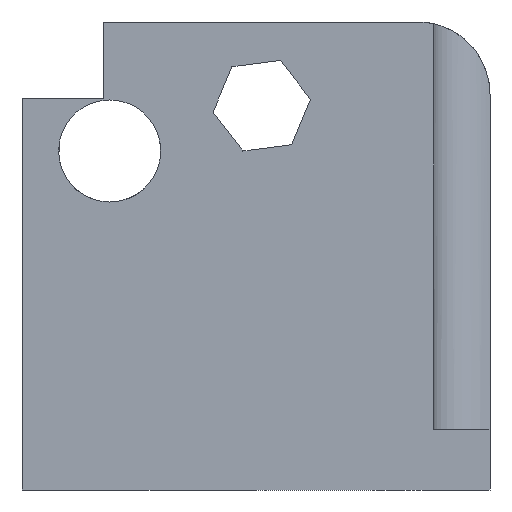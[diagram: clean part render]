
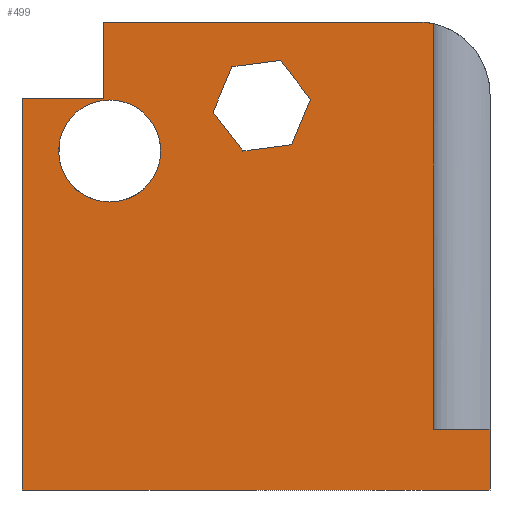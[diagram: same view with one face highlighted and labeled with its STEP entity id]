
A CAD part, left-side view. The second image highlights one B-rep face of the part: STEP entity #499.
In plain terms, the highlighted planar face has unit normal (-1, 0, 0).
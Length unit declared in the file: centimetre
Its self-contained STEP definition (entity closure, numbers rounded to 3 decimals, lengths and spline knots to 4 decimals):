
#3 = DIRECTION ( 'NONE',  ( 0., 0., -1. ) ) ;
#43 = DIRECTION ( 'NONE',  ( 0., 0., -1. ) ) ;
#45 = EDGE_CURVE ( 'NONE', #1384, #1856, #201, .T. ) ;
#48 = EDGE_CURVE ( 'NONE', #228, #1799, #528, .T. ) ;
#51 = DIRECTION ( 'NONE',  ( 0., 0.384, -0.924 ) ) ;
#68 = FACE_BOUND ( 'NONE', #793, .T. ) ;
#73 = ORIENTED_EDGE ( 'NONE', *, *, #707, .T. ) ;
#90 = VERTEX_POINT ( 'NONE', #1304 ) ;
#93 = CARTESIAN_POINT ( 'NONE',  ( 0., 120.1593, 996.0682 ) ) ;
#113 = EDGE_CURVE ( 'NONE', #1665, #189, #1031, .T. ) ;
#124 = CARTESIAN_POINT ( 'NONE',  ( 0., 527.8822, 724.254 ) ) ;
#129 = LINE ( 'NONE', #1313, #1232 ) ;
#135 = CARTESIAN_POINT ( 'NONE',  ( 0., 812.6484, 833.3904 ) ) ;
#136 = DIRECTION ( 'NONE',  ( 0., -1., 0. ) ) ;
#141 = VECTOR ( 'NONE', #666, 100. ) ;
#146 = VERTEX_POINT ( 'NONE', #1480 ) ;
#149 = CARTESIAN_POINT ( 'NONE',  ( 0., 154.83, 845.17 ) ) ;
#174 = CIRCLE ( 'NONE', #1766, 154.83 ) ;
#179 = ORIENTED_EDGE ( 'NONE', *, *, #113, .F. ) ;
#189 = VERTEX_POINT ( 'NONE', #1078 ) ;
#201 = LINE ( 'NONE', #215, #607 ) ;
#215 = CARTESIAN_POINT ( 'NONE',  ( 0., 1000., 129.6977 ) ) ;
#228 = VERTEX_POINT ( 'NONE', #472 ) ;
#229 = VERTEX_POINT ( 'NONE', #135 ) ;
#239 = VERTEX_POINT ( 'NONE', #454 ) ;
#262 = EDGE_CURVE ( 'NONE', #1839, #372, #444, .T. ) ;
#264 = EDGE_CURVE ( 'NONE', #90, #1180, #576, .T. ) ;
#296 = VECTOR ( 'NONE', #1792, 100. ) ;
#341 = CARTESIAN_POINT ( 'NONE',  ( 0., 812.6484, 724.3487 ) ) ;
#372 = VERTEX_POINT ( 'NONE', #493 ) ;
#386 = AXIS2_PLACEMENT_3D ( 'NONE', #1852, #1341, #1633 ) ;
#399 = DIRECTION ( 'NONE',  ( 0., 0., -1. ) ) ;
#432 = CARTESIAN_POINT ( 'NONE',  ( 0., 423.9093, 737.842 ) ) ;
#444 = LINE ( 'NONE', #432, #1588 ) ;
#454 = CARTESIAN_POINT ( 'NONE',  ( 0., 812.6484, 615.307 ) ) ;
#472 = CARTESIAN_POINT ( 'NONE',  ( 0., 1000., 835.5162 ) ) ;
#476 = EDGE_CURVE ( 'NONE', #1952, #1839, #1402, .T. ) ;
#490 = VECTOR ( 'NONE', #136, 100. ) ;
#493 = CARTESIAN_POINT ( 'NONE',  ( 0., 527.8822, 724.254 ) ) ;
#494 = CARTESIAN_POINT ( 'NONE',  ( 0., 423.9093, 737.842 ) ) ;
#499 = ADVANCED_FACE ( 'NONE', ( #68, #686, #1699 ), #1893, .F. ) ;
#509 = DIRECTION ( 'NONE',  ( 0., -1., 0. ) ) ;
#526 = CARTESIAN_POINT ( 'NONE',  ( 0., 383.6903, 834.6792 ) ) ;
#528 = LINE ( 'NONE', #1727, #1942 ) ;
#534 = DIRECTION ( 'NONE',  ( 1., 0., 0. ) ) ;
#544 = DIRECTION ( 'NONE',  ( 0., 0., -1. ) ) ;
#572 = DIRECTION ( 'NONE',  ( 0., -1., 0. ) ) ;
#576 = LINE ( 'NONE', #1192, #987 ) ;
#577 = LINE ( 'NONE', #1654, #490 ) ;
#607 = VECTOR ( 'NONE', #509, 100. ) ;
#623 = EDGE_CURVE ( 'NONE', #1856, #791, #703, .T. ) ;
#666 = DIRECTION ( 'NONE',  ( 0., -0.608, -0.794 ) ) ;
#682 = ORIENTED_EDGE ( 'NONE', *, *, #48, .T. ) ;
#686 = FACE_BOUND ( 'NONE', #1934, .T. ) ;
#699 = VERTEX_POINT ( 'NONE', #93 ) ;
#703 = LINE ( 'NONE', #1478, #1921 ) ;
#707 = EDGE_CURVE ( 'NONE', #1180, #146, #711, .T. ) ;
#711 = LINE ( 'NONE', #1937, #1035 ) ;
#717 = VERTEX_POINT ( 'NONE', #1927 ) ;
#724 = CARTESIAN_POINT ( 'NONE',  ( 0., 826.7163, 1000. ) ) ;
#737 = DIRECTION ( 'NONE',  ( 0., -0.384, 0.924 ) ) ;
#749 = CARTESIAN_POINT ( 'NONE',  ( 0., 826.7163, 835.5162 ) ) ;
#764 = DIRECTION ( 'NONE',  ( -1., 0., 0. ) ) ;
#772 = CARTESIAN_POINT ( 'NONE',  ( 0., 0., 0. ) ) ;
#791 = VERTEX_POINT ( 'NONE', #772 ) ;
#793 = EDGE_LOOP ( 'NONE', ( #1548, #857 ) ) ;
#795 = CARTESIAN_POINT ( 'NONE',  ( 0., 383.6903, 834.6792 ) ) ;
#796 = DIRECTION ( 'NONE',  ( 1., 0., 0. ) ) ;
#797 = EDGE_CURVE ( 'NONE', #372, #90, #1664, .T. ) ;
#854 = CARTESIAN_POINT ( 'NONE',  ( 0., 120.1593, 129.6977 ) ) ;
#857 = ORIENTED_EDGE ( 'NONE', *, *, #1413, .T. ) ;
#925 = EDGE_CURVE ( 'NONE', #1799, #791, #577, .T. ) ;
#946 = EDGE_CURVE ( 'NONE', #1665, #717, #1076, .T. ) ;
#979 = CIRCLE ( 'NONE', #1167, 109.0417 ) ;
#987 = VECTOR ( 'NONE', #737, 100. ) ;
#996 = DIRECTION ( 'NONE',  ( 0., 1., 0. ) ) ;
#1000 = EDGE_LOOP ( 'NONE', ( #1432, #1085, #682, #1529, #1611, #1275, #1819, #1939, #179 ) ) ;
#1012 = AXIS2_PLACEMENT_3D ( 'NONE', #341, #796, #1225 ) ;
#1022 = CARTESIAN_POINT ( 'NONE',  ( 0., 1000., 1000. ) ) ;
#1031 = LINE ( 'NONE', #1022, #1339 ) ;
#1035 = VECTOR ( 'NONE', #1184, 100. ) ;
#1047 = CIRCLE ( 'NONE', #1012, 109.0417 ) ;
#1076 = LINE ( 'NONE', #749, #296 ) ;
#1078 = CARTESIAN_POINT ( 'NONE',  ( 0., 154.83, 1000. ) ) ;
#1085 = ORIENTED_EDGE ( 'NONE', *, *, #1292, .T. ) ;
#1127 = VECTOR ( 'NONE', #51, 100. ) ;
#1167 = AXIS2_PLACEMENT_3D ( 'NONE', #1299, #534, #544 ) ;
#1180 = VERTEX_POINT ( 'NONE', #1690 ) ;
#1184 = DIRECTION ( 'NONE',  ( 0., -0.992, 0.13 ) ) ;
#1192 = CARTESIAN_POINT ( 'NONE',  ( 0., 591.6362, 807.5032 ) ) ;
#1225 = DIRECTION ( 'NONE',  ( 0., 0., -1. ) ) ;
#1232 = VECTOR ( 'NONE', #1658, 100. ) ;
#1235 = CARTESIAN_POINT ( 'NONE',  ( 0., 447.4443, 917.9284 ) ) ;
#1275 = ORIENTED_EDGE ( 'NONE', *, *, #45, .F. ) ;
#1292 = EDGE_CURVE ( 'NONE', #717, #228, #1886, .T. ) ;
#1299 = CARTESIAN_POINT ( 'NONE',  ( 0., 812.6484, 724.3487 ) ) ;
#1304 = CARTESIAN_POINT ( 'NONE',  ( 0., 591.6362, 807.5032 ) ) ;
#1313 = CARTESIAN_POINT ( 'NONE',  ( 0., 120.1593, 129.6977 ) ) ;
#1339 = VECTOR ( 'NONE', #572, 100. ) ;
#1341 = DIRECTION ( 'NONE',  ( 1., 0., 0. ) ) ;
#1350 = DIRECTION ( 'NONE',  ( 0., 0.608, 0.794 ) ) ;
#1382 = LINE ( 'NONE', #1235, #141 ) ;
#1384 = VERTEX_POINT ( 'NONE', #854 ) ;
#1402 = LINE ( 'NONE', #795, #1127 ) ;
#1413 = EDGE_CURVE ( 'NONE', #229, #239, #979, .T. ) ;
#1432 = ORIENTED_EDGE ( 'NONE', *, *, #946, .T. ) ;
#1440 = VECTOR ( 'NONE', #1350, 100. ) ;
#1443 = ORIENTED_EDGE ( 'NONE', *, *, #797, .T. ) ;
#1452 = ORIENTED_EDGE ( 'NONE', *, *, #262, .T. ) ;
#1478 = CARTESIAN_POINT ( 'NONE',  ( 0., 0., 1000. ) ) ;
#1480 = CARTESIAN_POINT ( 'NONE',  ( 0., 447.4443, 917.9284 ) ) ;
#1498 = DIRECTION ( 'NONE',  ( 0., 0.992, -0.13 ) ) ;
#1529 = ORIENTED_EDGE ( 'NONE', *, *, #925, .T. ) ;
#1548 = ORIENTED_EDGE ( 'NONE', *, *, #1810, .T. ) ;
#1560 = EDGE_CURVE ( 'NONE', #1384, #699, #129, .T. ) ;
#1588 = VECTOR ( 'NONE', #1498, 100. ) ;
#1611 = ORIENTED_EDGE ( 'NONE', *, *, #623, .F. ) ;
#1627 = ORIENTED_EDGE ( 'NONE', *, *, #476, .T. ) ;
#1633 = DIRECTION ( 'NONE',  ( 0., 0., -1. ) ) ;
#1654 = CARTESIAN_POINT ( 'NONE',  ( 0., 1000., 0. ) ) ;
#1658 = DIRECTION ( 'NONE',  ( 0., 0., 1. ) ) ;
#1664 = LINE ( 'NONE', #124, #1440 ) ;
#1665 = VERTEX_POINT ( 'NONE', #724 ) ;
#1690 = CARTESIAN_POINT ( 'NONE',  ( 0., 551.4173, 904.3405 ) ) ;
#1699 = FACE_OUTER_BOUND ( 'NONE', #1000, .T. ) ;
#1700 = CARTESIAN_POINT ( 'NONE',  ( 0., 1000., 0. ) ) ;
#1710 = CARTESIAN_POINT ( 'NONE',  ( 0., 0., 129.6977 ) ) ;
#1727 = CARTESIAN_POINT ( 'NONE',  ( 0., 1000., 1000. ) ) ;
#1742 = CARTESIAN_POINT ( 'NONE',  ( 0., 826.7163, 835.5162 ) ) ;
#1766 = AXIS2_PLACEMENT_3D ( 'NONE', #149, #764, #3 ) ;
#1792 = DIRECTION ( 'NONE',  ( 0., 0., -1. ) ) ;
#1799 = VERTEX_POINT ( 'NONE', #1700 ) ;
#1810 = EDGE_CURVE ( 'NONE', #239, #229, #1047, .T. ) ;
#1819 = ORIENTED_EDGE ( 'NONE', *, *, #1560, .T. ) ;
#1830 = ORIENTED_EDGE ( 'NONE', *, *, #264, .T. ) ;
#1839 = VERTEX_POINT ( 'NONE', #494 ) ;
#1850 = VECTOR ( 'NONE', #996, 100. ) ;
#1852 = CARTESIAN_POINT ( 'NONE',  ( 0., 1000., 1000. ) ) ;
#1856 = VERTEX_POINT ( 'NONE', #1710 ) ;
#1870 = EDGE_CURVE ( 'NONE', #699, #189, #174, .T. ) ;
#1886 = LINE ( 'NONE', #1742, #1850 ) ;
#1893 = PLANE ( 'NONE',  #386 ) ;
#1910 = EDGE_CURVE ( 'NONE', #146, #1952, #1382, .T. ) ;
#1921 = VECTOR ( 'NONE', #399, 100. ) ;
#1927 = CARTESIAN_POINT ( 'NONE',  ( 0., 826.7163, 835.5162 ) ) ;
#1934 = EDGE_LOOP ( 'NONE', ( #1627, #1452, #1443, #1830, #73, #1972 ) ) ;
#1937 = CARTESIAN_POINT ( 'NONE',  ( 0., 551.4173, 904.3405 ) ) ;
#1939 = ORIENTED_EDGE ( 'NONE', *, *, #1870, .T. ) ;
#1942 = VECTOR ( 'NONE', #43, 100. ) ;
#1952 = VERTEX_POINT ( 'NONE', #526 ) ;
#1972 = ORIENTED_EDGE ( 'NONE', *, *, #1910, .T. ) ;
